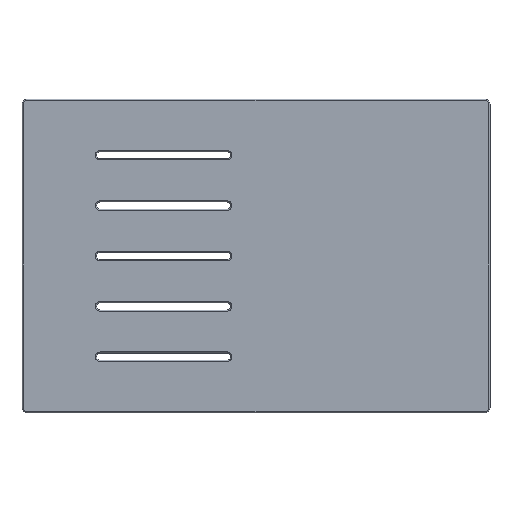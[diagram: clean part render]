
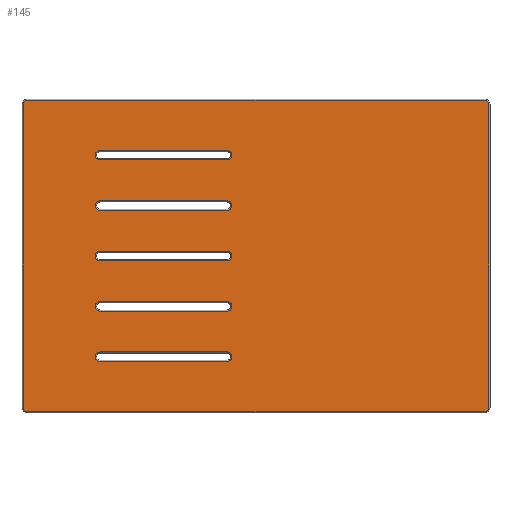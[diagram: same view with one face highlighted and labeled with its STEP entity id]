
A CAD part, top view. The second image highlights one B-rep face of the part: STEP entity #145.
In plain terms, the highlighted planar face has unit normal (0, 0, 1).
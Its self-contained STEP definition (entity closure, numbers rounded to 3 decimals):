
#48=FACE_BOUND('',#376,.T.);
#49=FACE_BOUND('',#377,.T.);
#50=FACE_BOUND('',#378,.T.);
#51=FACE_BOUND('',#379,.T.);
#52=FACE_BOUND('',#380,.T.);
#53=FACE_BOUND('',#381,.T.);
#63=PLANE('',#1756);
#145=ADVANCED_FACE('',(#48,#49,#50,#51,#52,#53),#63,.F.);
#376=EDGE_LOOP('',(#909,#910,#911,#912,#913));
#377=EDGE_LOOP('',(#914,#915,#916,#917,#918));
#378=EDGE_LOOP('',(#919,#920,#921,#922,#923));
#379=EDGE_LOOP('',(#924,#925,#926,#927,#928));
#380=EDGE_LOOP('',(#929,#930,#931,#932,#933));
#381=EDGE_LOOP('',(#934,#935,#936,#937,#938,#939,#940,#941));
#518=LINE('',#2581,#673);
#519=LINE('',#2585,#674);
#520=LINE('',#2588,#675);
#521=LINE('',#2592,#676);
#522=LINE('',#2595,#677);
#523=LINE('',#2599,#678);
#524=LINE('',#2602,#679);
#525=LINE('',#2606,#680);
#526=LINE('',#2609,#681);
#527=LINE('',#2613,#682);
#528=LINE('',#2617,#683);
#529=LINE('',#2621,#684);
#530=LINE('',#2625,#685);
#531=LINE('',#2629,#686);
#673=VECTOR('',#2059,1.);
#674=VECTOR('',#2062,1.);
#675=VECTOR('',#2065,1.);
#676=VECTOR('',#2068,1.);
#677=VECTOR('',#2071,1.);
#678=VECTOR('',#2074,1.);
#679=VECTOR('',#2077,1.);
#680=VECTOR('',#2080,1.);
#681=VECTOR('',#2083,1.);
#682=VECTOR('',#2086,1.);
#683=VECTOR('',#2089,1.);
#684=VECTOR('',#2092,1.);
#685=VECTOR('',#2095,1.);
#686=VECTOR('',#2098,1.);
#909=ORIENTED_EDGE('',*,*,#1363,.T.);
#910=ORIENTED_EDGE('',*,*,#1472,.T.);
#911=ORIENTED_EDGE('',*,*,#1473,.T.);
#912=ORIENTED_EDGE('',*,*,#1474,.T.);
#913=ORIENTED_EDGE('',*,*,#1475,.T.);
#914=ORIENTED_EDGE('',*,*,#1371,.T.);
#915=ORIENTED_EDGE('',*,*,#1476,.T.);
#916=ORIENTED_EDGE('',*,*,#1477,.T.);
#917=ORIENTED_EDGE('',*,*,#1478,.T.);
#918=ORIENTED_EDGE('',*,*,#1479,.T.);
#919=ORIENTED_EDGE('',*,*,#1379,.T.);
#920=ORIENTED_EDGE('',*,*,#1480,.T.);
#921=ORIENTED_EDGE('',*,*,#1481,.T.);
#922=ORIENTED_EDGE('',*,*,#1482,.T.);
#923=ORIENTED_EDGE('',*,*,#1483,.T.);
#924=ORIENTED_EDGE('',*,*,#1387,.T.);
#925=ORIENTED_EDGE('',*,*,#1484,.T.);
#926=ORIENTED_EDGE('',*,*,#1485,.T.);
#927=ORIENTED_EDGE('',*,*,#1486,.T.);
#928=ORIENTED_EDGE('',*,*,#1487,.T.);
#929=ORIENTED_EDGE('',*,*,#1407,.T.);
#930=ORIENTED_EDGE('',*,*,#1488,.T.);
#931=ORIENTED_EDGE('',*,*,#1489,.T.);
#932=ORIENTED_EDGE('',*,*,#1490,.T.);
#933=ORIENTED_EDGE('',*,*,#1491,.T.);
#934=ORIENTED_EDGE('',*,*,#1492,.T.);
#935=ORIENTED_EDGE('',*,*,#1493,.T.);
#936=ORIENTED_EDGE('',*,*,#1494,.T.);
#937=ORIENTED_EDGE('',*,*,#1495,.T.);
#938=ORIENTED_EDGE('',*,*,#1496,.T.);
#939=ORIENTED_EDGE('',*,*,#1497,.T.);
#940=ORIENTED_EDGE('',*,*,#1498,.T.);
#941=ORIENTED_EDGE('',*,*,#1499,.T.);
#1226=VERTEX_POINT('',#2355);
#1227=VERTEX_POINT('',#2357);
#1234=VERTEX_POINT('',#2373);
#1235=VERTEX_POINT('',#2375);
#1242=VERTEX_POINT('',#2391);
#1243=VERTEX_POINT('',#2393);
#1250=VERTEX_POINT('',#2409);
#1251=VERTEX_POINT('',#2411);
#1266=VERTEX_POINT('',#2451);
#1267=VERTEX_POINT('',#2453);
#1313=VERTEX_POINT('',#2580);
#1314=VERTEX_POINT('',#2582);
#1315=VERTEX_POINT('',#2584);
#1316=VERTEX_POINT('',#2587);
#1317=VERTEX_POINT('',#2589);
#1318=VERTEX_POINT('',#2591);
#1319=VERTEX_POINT('',#2594);
#1320=VERTEX_POINT('',#2596);
#1321=VERTEX_POINT('',#2598);
#1322=VERTEX_POINT('',#2601);
#1323=VERTEX_POINT('',#2603);
#1324=VERTEX_POINT('',#2605);
#1325=VERTEX_POINT('',#2608);
#1326=VERTEX_POINT('',#2610);
#1327=VERTEX_POINT('',#2612);
#1328=VERTEX_POINT('',#2615);
#1329=VERTEX_POINT('',#2616);
#1330=VERTEX_POINT('',#2618);
#1331=VERTEX_POINT('',#2620);
#1332=VERTEX_POINT('',#2622);
#1333=VERTEX_POINT('',#2624);
#1334=VERTEX_POINT('',#2626);
#1335=VERTEX_POINT('',#2628);
#1363=EDGE_CURVE('',#1227,#1226,#1594,.T.);
#1371=EDGE_CURVE('',#1235,#1234,#1598,.T.);
#1379=EDGE_CURVE('',#1243,#1242,#1602,.T.);
#1387=EDGE_CURVE('',#1251,#1250,#1606,.T.);
#1407=EDGE_CURVE('',#1267,#1266,#1614,.T.);
#1472=EDGE_CURVE('',#1226,#1313,#1636,.T.);
#1473=EDGE_CURVE('',#1313,#1314,#518,.T.);
#1474=EDGE_CURVE('',#1314,#1315,#1637,.T.);
#1475=EDGE_CURVE('',#1315,#1227,#519,.T.);
#1476=EDGE_CURVE('',#1234,#1316,#1638,.T.);
#1477=EDGE_CURVE('',#1316,#1317,#520,.T.);
#1478=EDGE_CURVE('',#1317,#1318,#1639,.T.);
#1479=EDGE_CURVE('',#1318,#1235,#521,.T.);
#1480=EDGE_CURVE('',#1242,#1319,#1640,.T.);
#1481=EDGE_CURVE('',#1319,#1320,#522,.T.);
#1482=EDGE_CURVE('',#1320,#1321,#1641,.T.);
#1483=EDGE_CURVE('',#1321,#1243,#523,.T.);
#1484=EDGE_CURVE('',#1250,#1322,#1642,.T.);
#1485=EDGE_CURVE('',#1322,#1323,#524,.T.);
#1486=EDGE_CURVE('',#1323,#1324,#1643,.T.);
#1487=EDGE_CURVE('',#1324,#1251,#525,.T.);
#1488=EDGE_CURVE('',#1266,#1325,#1644,.T.);
#1489=EDGE_CURVE('',#1325,#1326,#526,.T.);
#1490=EDGE_CURVE('',#1326,#1327,#1645,.T.);
#1491=EDGE_CURVE('',#1327,#1267,#527,.T.);
#1492=EDGE_CURVE('',#1328,#1329,#1646,.T.);
#1493=EDGE_CURVE('',#1329,#1330,#528,.T.);
#1494=EDGE_CURVE('',#1330,#1331,#1647,.T.);
#1495=EDGE_CURVE('',#1331,#1332,#529,.T.);
#1496=EDGE_CURVE('',#1332,#1333,#1648,.T.);
#1497=EDGE_CURVE('',#1333,#1334,#530,.T.);
#1498=EDGE_CURVE('',#1334,#1335,#1649,.T.);
#1499=EDGE_CURVE('',#1335,#1328,#531,.T.);
#1594=CIRCLE('',#1672,4.25);
#1598=CIRCLE('',#1678,4.25);
#1602=CIRCLE('',#1684,4.25);
#1606=CIRCLE('',#1690,4.25);
#1614=CIRCLE('',#1704,4.25);
#1636=CIRCLE('',#1742,4.25);
#1637=CIRCLE('',#1743,4.25);
#1638=CIRCLE('',#1744,4.25);
#1639=CIRCLE('',#1745,4.25);
#1640=CIRCLE('',#1746,4.25);
#1641=CIRCLE('',#1747,4.25);
#1642=CIRCLE('',#1748,4.25);
#1643=CIRCLE('',#1749,4.25);
#1644=CIRCLE('',#1750,4.25);
#1645=CIRCLE('',#1751,4.25);
#1646=CIRCLE('',#1752,4.);
#1647=CIRCLE('',#1753,4.);
#1648=CIRCLE('',#1754,4.);
#1649=CIRCLE('',#1755,4.);
#1672=AXIS2_PLACEMENT_3D('',#2356,#1850,#1851);
#1678=AXIS2_PLACEMENT_3D('',#2374,#1866,#1867);
#1684=AXIS2_PLACEMENT_3D('',#2392,#1882,#1883);
#1690=AXIS2_PLACEMENT_3D('',#2410,#1898,#1899);
#1704=AXIS2_PLACEMENT_3D('',#2452,#1938,#1939);
#1742=AXIS2_PLACEMENT_3D('',#2579,#2057,#2058);
#1743=AXIS2_PLACEMENT_3D('',#2583,#2060,#2061);
#1744=AXIS2_PLACEMENT_3D('',#2586,#2063,#2064);
#1745=AXIS2_PLACEMENT_3D('',#2590,#2066,#2067);
#1746=AXIS2_PLACEMENT_3D('',#2593,#2069,#2070);
#1747=AXIS2_PLACEMENT_3D('',#2597,#2072,#2073);
#1748=AXIS2_PLACEMENT_3D('',#2600,#2075,#2076);
#1749=AXIS2_PLACEMENT_3D('',#2604,#2078,#2079);
#1750=AXIS2_PLACEMENT_3D('',#2607,#2081,#2082);
#1751=AXIS2_PLACEMENT_3D('',#2611,#2084,#2085);
#1752=AXIS2_PLACEMENT_3D('',#2614,#2087,#2088);
#1753=AXIS2_PLACEMENT_3D('',#2619,#2090,#2091);
#1754=AXIS2_PLACEMENT_3D('',#2623,#2093,#2094);
#1755=AXIS2_PLACEMENT_3D('',#2627,#2096,#2097);
#1756=AXIS2_PLACEMENT_3D('',#2630,#2099,#2100);
#1850=DIRECTION('',(0.,0.,-1.));
#1851=DIRECTION('',(-1.,0.,0.));
#1866=DIRECTION('',(0.,0.,-1.));
#1867=DIRECTION('',(-1.,0.,0.));
#1882=DIRECTION('',(0.,0.,-1.));
#1883=DIRECTION('',(-1.,0.,0.));
#1898=DIRECTION('',(0.,0.,-1.));
#1899=DIRECTION('',(-1.,0.,0.));
#1938=DIRECTION('',(0.,0.,-1.));
#1939=DIRECTION('',(-1.,0.,0.));
#2057=DIRECTION('',(0.,0.,-1.));
#2058=DIRECTION('',(-1.,0.,0.));
#2059=DIRECTION('',(-1.,0.,0.));
#2060=DIRECTION('',(0.,0.,-1.));
#2061=DIRECTION('',(-1.,0.,0.));
#2062=DIRECTION('',(1.,0.,0.));
#2063=DIRECTION('',(0.,0.,-1.));
#2064=DIRECTION('',(-1.,0.,0.));
#2065=DIRECTION('',(-1.,0.,0.));
#2066=DIRECTION('',(0.,0.,-1.));
#2067=DIRECTION('',(-1.,0.,0.));
#2068=DIRECTION('',(1.,0.,0.));
#2069=DIRECTION('',(0.,0.,-1.));
#2070=DIRECTION('',(-1.,0.,0.));
#2071=DIRECTION('',(-1.,0.,0.));
#2072=DIRECTION('',(0.,0.,-1.));
#2073=DIRECTION('',(-1.,0.,0.));
#2074=DIRECTION('',(1.,0.,0.));
#2075=DIRECTION('',(0.,0.,-1.));
#2076=DIRECTION('',(-1.,0.,0.));
#2077=DIRECTION('',(-1.,0.,0.));
#2078=DIRECTION('',(0.,0.,-1.));
#2079=DIRECTION('',(-1.,0.,0.));
#2080=DIRECTION('',(1.,0.,0.));
#2081=DIRECTION('',(0.,0.,-1.));
#2082=DIRECTION('',(-1.,0.,0.));
#2083=DIRECTION('',(-1.,0.,0.));
#2084=DIRECTION('',(0.,0.,-1.));
#2085=DIRECTION('',(-1.,0.,0.));
#2086=DIRECTION('',(1.,0.,0.));
#2087=DIRECTION('',(0.,0.,1.));
#2088=DIRECTION('',(-1.,0.,0.));
#2089=DIRECTION('',(0.,1.,0.));
#2090=DIRECTION('',(0.,0.,1.));
#2091=DIRECTION('',(-1.,0.,0.));
#2092=DIRECTION('',(-1.,0.,0.));
#2093=DIRECTION('',(0.,0.,1.));
#2094=DIRECTION('',(-1.,0.,0.));
#2095=DIRECTION('',(0.,-1.,0.));
#2096=DIRECTION('',(0.,0.,1.));
#2097=DIRECTION('',(-1.,0.,0.));
#2098=DIRECTION('',(1.,0.,0.));
#2099=DIRECTION('',(0.,0.,-1.));
#2100=DIRECTION('',(1.,0.,0.));
#2355=CARTESIAN_POINT('',(-21.5,-90.,8.));
#2356=CARTESIAN_POINT('',(-25.75,-90.,8.));
#2357=CARTESIAN_POINT('',(-25.75,-85.75,8.));
#2373=CARTESIAN_POINT('',(-21.5,-45.,8.));
#2374=CARTESIAN_POINT('',(-25.75,-45.,8.));
#2375=CARTESIAN_POINT('',(-25.75,-40.75,8.));
#2391=CARTESIAN_POINT('',(-21.5,0.,8.));
#2392=CARTESIAN_POINT('',(-25.75,0.,8.));
#2393=CARTESIAN_POINT('',(-25.75,4.25,8.));
#2409=CARTESIAN_POINT('',(-21.5,45.,8.));
#2410=CARTESIAN_POINT('',(-25.75,45.,8.));
#2411=CARTESIAN_POINT('',(-25.75,49.25,8.));
#2451=CARTESIAN_POINT('',(-21.5,90.,8.));
#2452=CARTESIAN_POINT('',(-25.75,90.,8.));
#2453=CARTESIAN_POINT('',(-25.75,94.25,8.));
#2579=CARTESIAN_POINT('',(-25.75,-90.,8.));
#2580=CARTESIAN_POINT('',(-25.75,-94.25,8.));
#2581=CARTESIAN_POINT('',(204.,-94.25,8.));
#2582=CARTESIAN_POINT('',(-139.25,-94.25,8.));
#2583=CARTESIAN_POINT('',(-139.25,-90.,8.));
#2584=CARTESIAN_POINT('',(-139.25,-85.75,8.));
#2585=CARTESIAN_POINT('',(204.,-85.75,8.));
#2586=CARTESIAN_POINT('',(-25.75,-45.,8.));
#2587=CARTESIAN_POINT('',(-25.75,-49.25,8.));
#2588=CARTESIAN_POINT('',(204.,-49.25,8.));
#2589=CARTESIAN_POINT('',(-139.25,-49.25,8.));
#2590=CARTESIAN_POINT('',(-139.25,-45.,8.));
#2591=CARTESIAN_POINT('',(-139.25,-40.75,8.));
#2592=CARTESIAN_POINT('',(204.,-40.75,8.));
#2593=CARTESIAN_POINT('',(-25.75,0.,8.));
#2594=CARTESIAN_POINT('',(-25.75,-4.25,8.));
#2595=CARTESIAN_POINT('',(204.,-4.25,8.));
#2596=CARTESIAN_POINT('',(-139.25,-4.25,8.));
#2597=CARTESIAN_POINT('',(-139.25,0.,8.));
#2598=CARTESIAN_POINT('',(-139.25,4.25,8.));
#2599=CARTESIAN_POINT('',(204.,4.25,8.));
#2600=CARTESIAN_POINT('',(-25.75,45.,8.));
#2601=CARTESIAN_POINT('',(-25.75,40.75,8.));
#2602=CARTESIAN_POINT('',(204.,40.75,8.));
#2603=CARTESIAN_POINT('',(-139.25,40.75,8.));
#2604=CARTESIAN_POINT('',(-139.25,45.,8.));
#2605=CARTESIAN_POINT('',(-139.25,49.25,8.));
#2606=CARTESIAN_POINT('',(204.,49.25,8.));
#2607=CARTESIAN_POINT('',(-25.75,90.,8.));
#2608=CARTESIAN_POINT('',(-25.75,85.75,8.));
#2609=CARTESIAN_POINT('',(204.,85.75,8.));
#2610=CARTESIAN_POINT('',(-139.25,85.75,8.));
#2611=CARTESIAN_POINT('',(-139.25,90.,8.));
#2612=CARTESIAN_POINT('',(-139.25,94.25,8.));
#2613=CARTESIAN_POINT('',(204.,94.25,8.));
#2614=CARTESIAN_POINT('',(204.,-135.,8.));
#2615=CARTESIAN_POINT('',(204.,-139.,8.));
#2616=CARTESIAN_POINT('',(208.,-135.,8.));
#2617=CARTESIAN_POINT('',(208.,135.,8.));
#2618=CARTESIAN_POINT('',(208.,135.,8.));
#2619=CARTESIAN_POINT('',(204.,135.,8.));
#2620=CARTESIAN_POINT('',(204.,139.,8.));
#2621=CARTESIAN_POINT('',(204.,139.,8.));
#2622=CARTESIAN_POINT('',(-204.,139.,8.));
#2623=CARTESIAN_POINT('',(-204.,135.,8.));
#2624=CARTESIAN_POINT('',(-208.,135.,8.));
#2625=CARTESIAN_POINT('',(-208.,135.,8.));
#2626=CARTESIAN_POINT('',(-208.,-135.,8.));
#2627=CARTESIAN_POINT('',(-204.,-135.,8.));
#2628=CARTESIAN_POINT('',(-204.,-139.,8.));
#2629=CARTESIAN_POINT('',(204.,-139.,8.));
#2630=CARTESIAN_POINT('',(204.,135.,8.));
